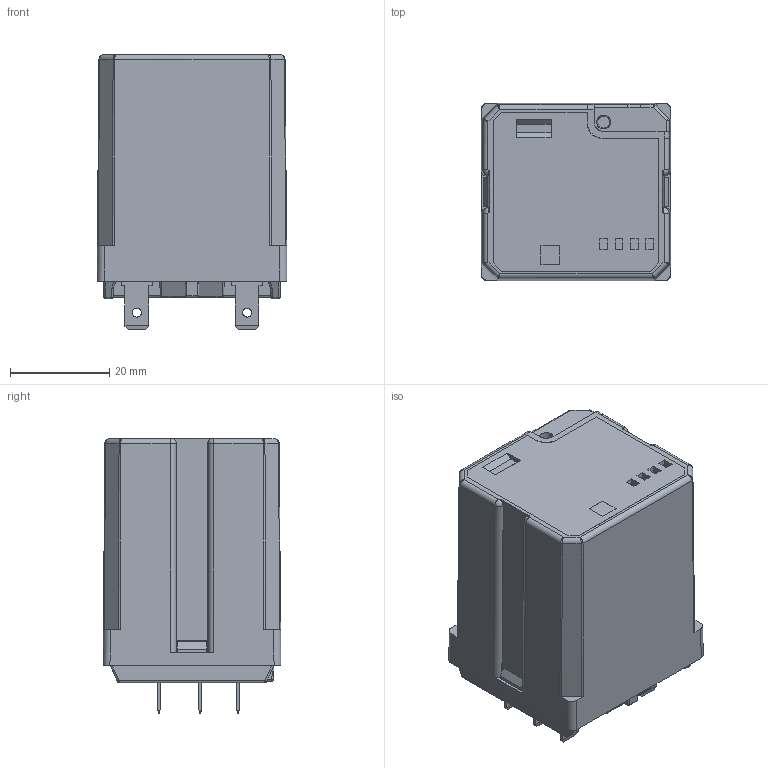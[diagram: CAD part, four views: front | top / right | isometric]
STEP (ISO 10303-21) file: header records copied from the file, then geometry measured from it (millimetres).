
FILE_DESCRIPTION(('STEP AP214'),'2;1');
FILE_NAME('6232-0300.stp','2011-09-07T15:15:40',(''),(''),'2007.1.106','THINKDESIGN','');
FILE_SCHEMA(('AUTOMOTIVE_DESIGN'));
Length unit declared in the file: millimetre
Products named in the file (1): None
Bounding box: 38.2 x 35.8 x 55.31 mm (x, y, z)
Surface area: 11451.2 mm2 (no closed solid volume)
Topology: 0 solids, 0 shells, 440 faces, 2461 edges, 2423 vertices
Faces by surface type: plane 264, cylinder 102, bspline 74
Full cylindrical faces by diameter (mm): 1.8 x6, 5 x1
Entity records: 27706 total; most frequent: CARTESIAN_POINT 10478, DIRECTION 2813, COMPOSITE_CURVE_SEGMENT 2437, TRIMMED_CURVE 1955, VECTOR 1857, LINE 1857, AXIS2_PLACEMENT_3D 478, OUTER_BOUNDARY_CURVE 440
